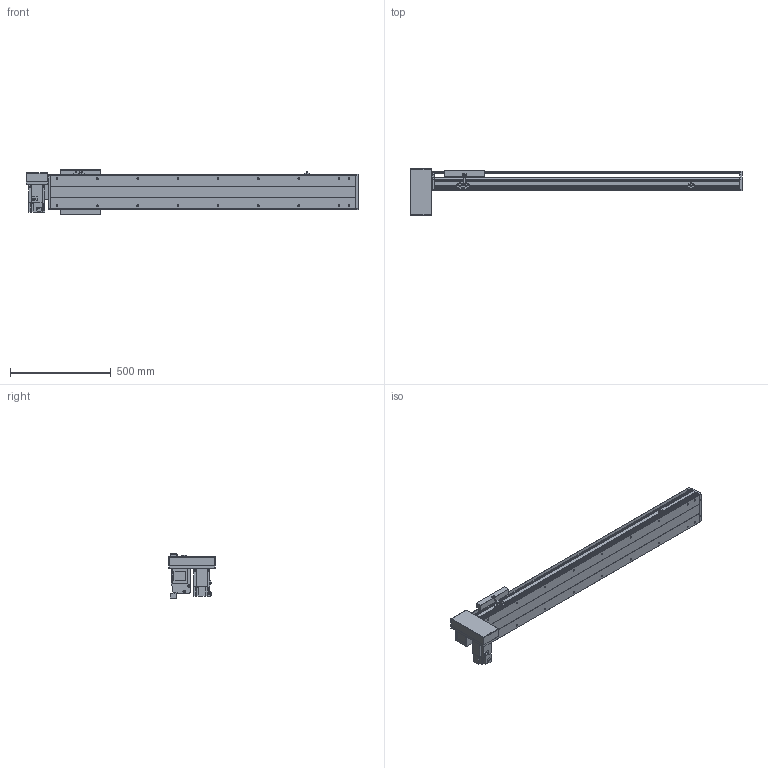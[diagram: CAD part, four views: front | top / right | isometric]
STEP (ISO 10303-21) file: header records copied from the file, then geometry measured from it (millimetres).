
FILE_DESCRIPTION(/* description */ ('STEP AP214'),/* implementation_level */ '2;1');
FILE_NAME(/* name */ 'PBS200-P40-S1150-RD-T75-C1-N(0)',/* time_stamp */ '2022-06-11T09:29:29+02:00',/* author */ ('License CC BY-ND 4.0'),/* organization */ ('CADENAS'),/* preprocessor_version */ 'ST-DEVELOPER v18.102',/* originating_system */ 'PARTsolutions',/* authorisation */ ' ');
FILE_SCHEMA (('AUTOMOTIVE_DESIGN {1 0 10303 214 3 1 1}'));
Length unit declared in the file: millimetre
Products named in the file (7): PBS200-P40-S1150-RD-T75-C1-N(0); PBS200_sensor; PBS200_plant; PBS200_sliser; T75-p1; PBS200T-RD_motors; PBS200-S1150()_body
Assembly tree (8 placements, depth 2):
  PBS200-P40-S1150-RD-T75-C1-N(0)
    PBS200_sensor  x3
    PBS200_plant
    PBS200_sliser
    T75-p1
    PBS200T-RD_motors
    PBS200-S1150()_body
Bounding box: 1650 x 230 x 221 mm (x, y, z)
Volume: 12173541.8 mm3; surface area: 1967465.3 mm2
Topology: 8 solids, 8 shells, 926 faces, 2384 edges, 1554 vertices
Faces by surface type: plane 576, cylinder 300, cone 50
Full cylindrical faces by diameter (mm): 2.459 x6, 3.242 x4, 4.5 x6, 4.917 x4, 5 x6, 6 x7, 6.6 x8, 6.647 x22, 8 x6, 10 x4, 12 x8, 38 x2, 40 x1, 70 x1
Entity records: 24701 total; most frequent: DIRECTION 4351, CARTESIAN_POINT 4210, ORIENTED_EDGE 3994, EDGE_CURVE 1997, AXIS2_PLACEMENT_3D 1519, VERTEX_POINT 1378, LINE 1313, VECTOR 1313
